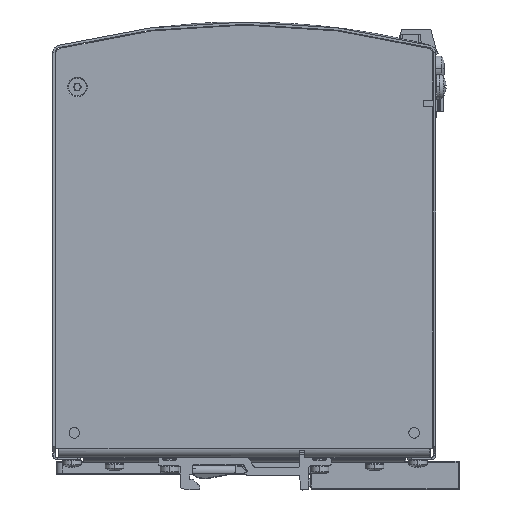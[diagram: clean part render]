
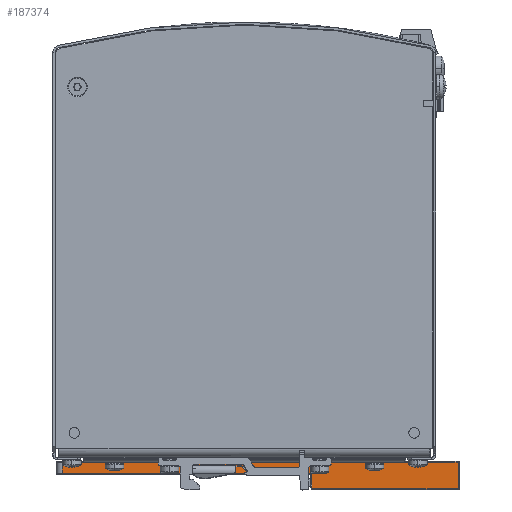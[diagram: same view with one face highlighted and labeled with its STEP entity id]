
A CAD part, left-side view. The second image highlights one B-rep face of the part: STEP entity #187374.
In plain terms, the highlighted planar face has unit normal (-1, 0, 0).
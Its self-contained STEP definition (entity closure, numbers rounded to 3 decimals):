
#858 = EDGE_CURVE ( 'NONE', #204155, #16896, #231487, .T. ) ;
#984 = CARTESIAN_POINT ( 'NONE',  ( 568.687, -83.485, 10.5 ) ) ;
#4145 = CARTESIAN_POINT ( 'NONE',  ( 568.687, -114.186, 10.5 ) ) ;
#16896 = VERTEX_POINT ( 'NONE', #198450 ) ;
#17944 = CARTESIAN_POINT ( 'NONE',  ( 568.687, -83.885, 0.932 ) ) ;
#19127 = CARTESIAN_POINT ( 'NONE',  ( 568.687, -131.285, 8.9 ) ) ;
#22583 = CARTESIAN_POINT ( 'NONE',  ( 568.687, -84.294, 0.4 ) ) ;
#22706 = ORIENTED_EDGE ( 'NONE', *, *, #139081, .T. ) ;
#24057 = DIRECTION ( 'NONE',  ( 0., -0.609, -0.793 ) ) ;
#24486 = DIRECTION ( 'NONE',  ( 0., 1., 0. ) ) ;
#30194 = VECTOR ( 'NONE', #189375, 1000. ) ;
#30530 = DIRECTION ( 'NONE',  ( 0., 0., -1. ) ) ;
#30887 = EDGE_CURVE ( 'NONE', #172090, #118616, #39009, .T. ) ;
#31970 = ORIENTED_EDGE ( 'NONE', *, *, #30887, .T. ) ;
#32943 = LINE ( 'NONE', #198214, #207409 ) ;
#37005 = EDGE_CURVE ( 'NONE', #238754, #226361, #171827, .T. ) ;
#37835 = EDGE_CURVE ( 'NONE', #171861, #204155, #191714, .T. ) ;
#39009 = LINE ( 'NONE', #188362, #48081 ) ;
#43133 = EDGE_CURVE ( 'NONE', #214716, #69542, #44031, .T. ) ;
#44031 = LINE ( 'NONE', #137067, #57009 ) ;
#44348 = LINE ( 'NONE', #79879, #113770 ) ;
#45559 = CARTESIAN_POINT ( 'NONE',  ( 568.687, -84.294, 0.4 ) ) ;
#48081 = VECTOR ( 'NONE', #221419, 1000. ) ;
#53480 = ORIENTED_EDGE ( 'NONE', *, *, #91754, .T. ) ;
#53679 = ORIENTED_EDGE ( 'NONE', *, *, #43133, .T. ) ;
#53854 = ORIENTED_EDGE ( 'NONE', *, *, #37835, .T. ) ;
#54997 = CARTESIAN_POINT ( 'NONE',  ( 568.687, -3.185, 5.4 ) ) ;
#57009 = VECTOR ( 'NONE', #24486, 1000. ) ;
#57942 = ORIENTED_EDGE ( 'NONE', *, *, #37005, .T. ) ;
#59569 = CARTESIAN_POINT ( 'NONE',  ( 568.687, -131.285, 0.4 ) ) ;
#60804 = CARTESIAN_POINT ( 'NONE',  ( 568.687, -114.186, 8.9 ) ) ;
#60851 = DIRECTION ( 'NONE',  ( -1., 0., 0. ) ) ;
#61031 = ORIENTED_EDGE ( 'NONE', *, *, #213302, .T. ) ;
#65609 = CARTESIAN_POINT ( 'NONE',  ( 568.687, -83.885, 0.932 ) ) ;
#68483 = EDGE_CURVE ( 'NONE', #16896, #214716, #210044, .T. ) ;
#69542 = VERTEX_POINT ( 'NONE', #239295 ) ;
#75417 = VECTOR ( 'NONE', #213182, 1000. ) ;
#78805 = DIRECTION ( 'NONE',  ( 0., 0., -1. ) ) ;
#79879 = CARTESIAN_POINT ( 'NONE',  ( 568.687, -3.185, 5.4 ) ) ;
#84781 = ORIENTED_EDGE ( 'NONE', *, *, #177402, .T. ) ;
#91754 = EDGE_CURVE ( 'NONE', #238676, #172090, #160321, .T. ) ;
#92257 = EDGE_CURVE ( 'NONE', #226361, #238676, #205168, .T. ) ;
#97455 = AXIS2_PLACEMENT_3D ( 'NONE', #984, #60851, #172239 ) ;
#97646 = PLANE ( 'NONE',  #97455 ) ;
#98445 = DIRECTION ( 'NONE',  ( 0., 1., 0. ) ) ;
#98978 = VECTOR ( 'NONE', #24057, 1000. ) ;
#99092 = EDGE_LOOP ( 'NONE', ( #53480, #31970, #84781, #22706, #53854, #199970, #153026, #53679, #61031, #57942, #233651 ) ) ;
#100680 = DIRECTION ( 'NONE',  ( 0., -1., 0. ) ) ;
#113770 = VECTOR ( 'NONE', #100680, 1000. ) ;
#114211 = VERTEX_POINT ( 'NONE', #232604 ) ;
#118616 = VERTEX_POINT ( 'NONE', #54997 ) ;
#124792 = DIRECTION ( 'NONE',  ( 0., 1., 0. ) ) ;
#124859 = CARTESIAN_POINT ( 'NONE',  ( 568.687, -18.685, 10.5 ) ) ;
#128291 = CARTESIAN_POINT ( 'NONE',  ( 568.687, -18.685, 8.9 ) ) ;
#133234 = VECTOR ( 'NONE', #124792, 1000. ) ;
#137067 = CARTESIAN_POINT ( 'NONE',  ( 568.687, -131.285, 8.9 ) ) ;
#139081 = EDGE_CURVE ( 'NONE', #114211, #171861, #32943, .T. ) ;
#153026 = ORIENTED_EDGE ( 'NONE', *, *, #68483, .T. ) ;
#156988 = VECTOR ( 'NONE', #78805, 1000. ) ;
#160321 = LINE ( 'NONE', #200704, #133234 ) ;
#169727 = DIRECTION ( 'NONE',  ( 0., 0., 1. ) ) ;
#171058 = CARTESIAN_POINT ( 'NONE',  ( 568.687, -114.186, 10.5 ) ) ;
#171795 = CARTESIAN_POINT ( 'NONE',  ( 568.687, -18.685, 10.5 ) ) ;
#171827 = LINE ( 'NONE', #4145, #235306 ) ;
#171861 = VERTEX_POINT ( 'NONE', #17944 ) ;
#172090 = VERTEX_POINT ( 'NONE', #176926 ) ;
#172239 = DIRECTION ( 'NONE',  ( 0., 0., 1. ) ) ;
#176926 = CARTESIAN_POINT ( 'NONE',  ( 568.687, -3.185, 8.9 ) ) ;
#177402 = EDGE_CURVE ( 'NONE', #118616, #114211, #44348, .T. ) ;
#187374 = ADVANCED_FACE ( 'NONE', ( #207716 ), #97646, .T. ) ;
#188362 = CARTESIAN_POINT ( 'NONE',  ( 568.687, -3.185, 8.9 ) ) ;
#189375 = DIRECTION ( 'NONE',  ( 0., 0., 1. ) ) ;
#191714 = LINE ( 'NONE', #65609, #98978 ) ;
#198214 = CARTESIAN_POINT ( 'NONE',  ( 568.687, -83.885, 5.4 ) ) ;
#198450 = CARTESIAN_POINT ( 'NONE',  ( 568.687, -131.285, 0.4 ) ) ;
#199970 = ORIENTED_EDGE ( 'NONE', *, *, #858, .T. ) ;
#200704 = CARTESIAN_POINT ( 'NONE',  ( 568.687, -18.685, 8.9 ) ) ;
#204155 = VERTEX_POINT ( 'NONE', #22583 ) ;
#205168 = LINE ( 'NONE', #171795, #156988 ) ;
#207409 = VECTOR ( 'NONE', #30530, 1000. ) ;
#207716 = FACE_OUTER_BOUND ( 'NONE', #99092, .T. ) ;
#210044 = LINE ( 'NONE', #59569, #217099 ) ;
#213182 = DIRECTION ( 'NONE',  ( 0., -1., 0. ) ) ;
#213302 = EDGE_CURVE ( 'NONE', #69542, #238754, #224816, .T. ) ;
#214716 = VERTEX_POINT ( 'NONE', #19127 ) ;
#217099 = VECTOR ( 'NONE', #169727, 1000. ) ;
#221419 = DIRECTION ( 'NONE',  ( 0., 0., -1. ) ) ;
#224816 = LINE ( 'NONE', #60804, #30194 ) ;
#226361 = VERTEX_POINT ( 'NONE', #124859 ) ;
#231487 = LINE ( 'NONE', #45559, #75417 ) ;
#232604 = CARTESIAN_POINT ( 'NONE',  ( 568.687, -83.885, 5.4 ) ) ;
#233651 = ORIENTED_EDGE ( 'NONE', *, *, #92257, .T. ) ;
#235306 = VECTOR ( 'NONE', #98445, 1000. ) ;
#238676 = VERTEX_POINT ( 'NONE', #128291 ) ;
#238754 = VERTEX_POINT ( 'NONE', #171058 ) ;
#239295 = CARTESIAN_POINT ( 'NONE',  ( 568.687, -114.186, 8.9 ) ) ;
